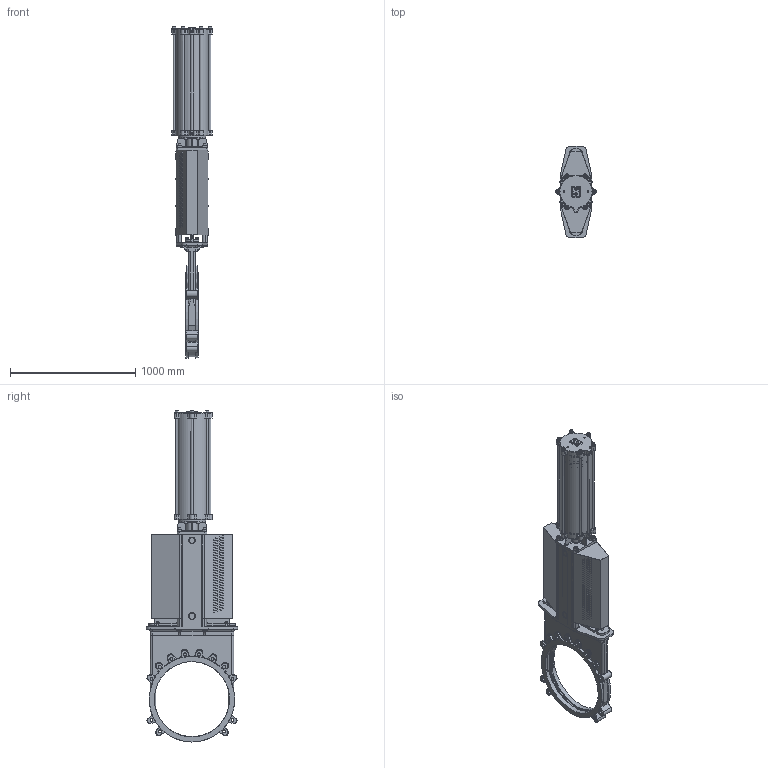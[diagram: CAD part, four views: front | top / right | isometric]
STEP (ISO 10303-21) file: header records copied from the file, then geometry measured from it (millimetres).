
FILE_DESCRIPTION(/* description */ (''),/* implementation_level */ '2;1');
FILE_NAME(/* name */ 'F:\Emir\3D-block special\WB\WB14-DN600-PN10-FRSC-250-630.stp',/* time_stamp */ '2018-03-06T15:58:46+01:00',/* author */ ('emimus'),/* organization */ (''),/* preprocessor_version */ 'ST-DEVELOPER v17',/* originating_system */ 'Autodesk Inventor 2018',/* authorisation */ '');
FILE_SCHEMA (('CONFIG_CONTROL_DESIGN'));
Products named in the file (1): WB14-DN600-PN10-FRSC-250-630
Bounding box: 322 x 729 x 2648 mm (x, y, z)
Volume: 50426024.4 mm3; surface area: 9312389.1 mm2
Topology: 1 solids, 1 shells, 3883 faces, 10304 edges, 6491 vertices
Faces by surface type: plane 1457, cylinder 1284, torus 367, cone 320, bspline 283, sphere 172
Full cylindrical faces by diameter (mm): 3.7 x16, 4.2 x16, 4.5 x4, 4.917 x7, 5 x2, 6.647 x4, 7.5 x4, 8.376 x4, 9.5 x2, 10.106 x10, 12 x8, 12.5 x6, 13 x8, 14 x7, 15 x1, 16 x12, 17 x10, 17.294 x4, 17.5 x6, 18 x1, 18.2 x4, 18.5 x2, 18.631 x2, 20 x12, 21 x8, 23.752 x20, 24 x12, 26 x2, 30 x7, 32 x1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
Entity records: 137351 total; most frequent: CARTESIAN_POINT 39992, DIRECTION 20811, ORIENTED_EDGE 20464, EDGE_CURVE 10232, AXIS2_PLACEMENT_3D 8209, VERTEX_POINT 6491, EDGE_LOOP 4559, CIRCLE 4472
